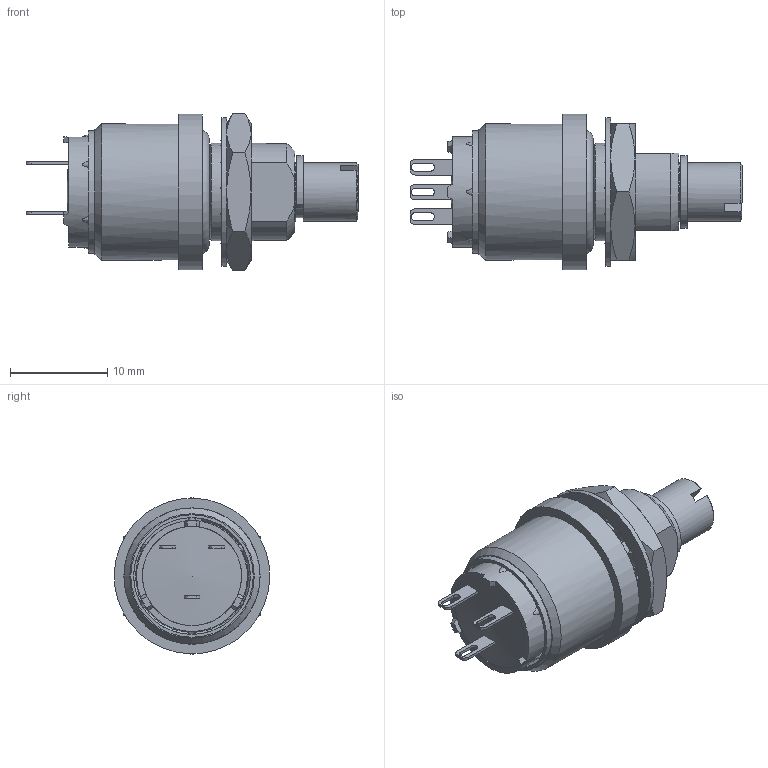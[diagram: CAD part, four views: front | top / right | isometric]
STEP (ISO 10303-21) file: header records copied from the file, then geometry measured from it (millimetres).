
FILE_DESCRIPTION(/* description */ (''),/* implementation_level */ '2;1');
FILE_NAME(/* name */ 'P13SMNFGS472MA2 0 ',/* time_stamp */ '2023-12-21T15:06:50+01:00',/* author */ ('T MANCINI'),/* organization */ ('Vishay'),/* preprocessor_version */ 'ST-DEVELOPER v18.102',/* originating_system */ 'Solid Edge',/* authorisation */ 'Unknown');
FILE_SCHEMA (('AUTOMOTIVE_DESIGN {1 0 10303 214 3 1 1}'));
Length unit declared in the file: millimetre
Products named in the file (11): P13SMNFGS472MA2 0 ; 1_oa_0; 2_oa_1; 3; 4; 5_oa_2; 6_oa_3; 7; 8_oa_4; 9; 10
Assembly tree (10 placements, depth 2):
  P13SMNFGS472MA2 0 
    1_oa_0
    2_oa_1
    3
    4
    5_oa_2
    6_oa_3
    7
    8_oa_4
    9
    10
Bounding box: 34.13 x 15.99 x 16.17 mm (x, y, z)
Volume: 2359.5 mm3; surface area: 4316.2 mm2
Topology: 12 solids, 12 shells, 283 faces, 730 edges, 483 vertices
Faces by surface type: plane 105, cylinder 82, bspline 54, cone 33, torus 8, sphere 1
Full cylindrical faces by diameter (mm): 4.2 x2, 5 x1, 5.28 x1, 6 x6, 8.76 x1, 9.188 x1, 9.514 x3, 10 x3, 11 x1, 11.4 x1, 12 x2, 12.6 x2, 12.84 x1, 14 x1, 15.3 x1, 16 x1
Entity records: 9950 total; most frequent: CARTESIAN_POINT 3033, ORIENTED_EDGE 1320, DIRECTION 1166, EDGE_CURVE 660, AXIS2_PLACEMENT_3D 469, VERTEX_POINT 461, FACE_BOUND 361, EDGE_LOOP 360
